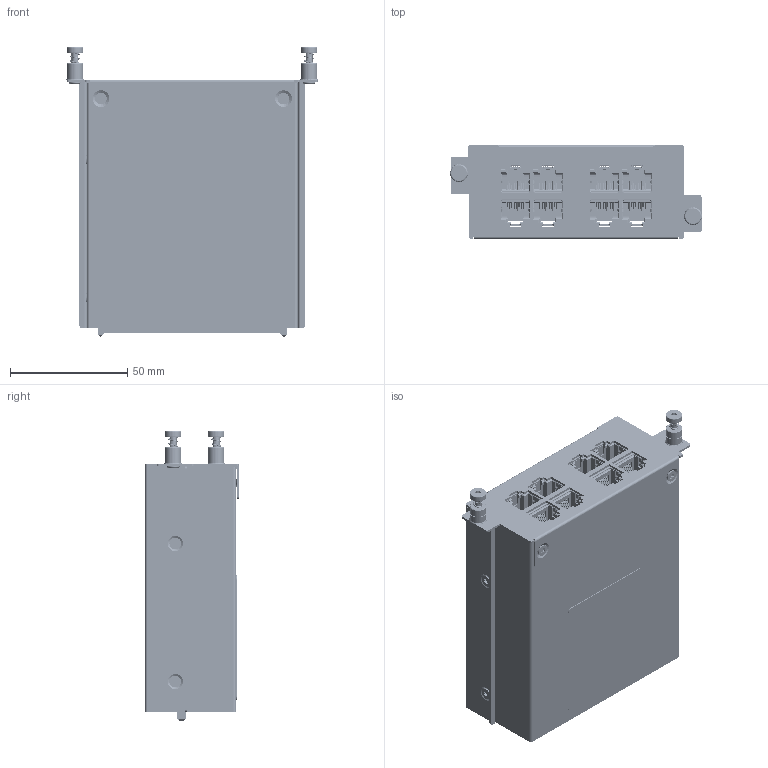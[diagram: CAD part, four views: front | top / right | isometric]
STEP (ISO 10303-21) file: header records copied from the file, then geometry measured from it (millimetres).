
FILE_DESCRIPTION((''),'2;1');
FILE_NAME('RKS_4000_8TX_SW0001','2022-06-19T15:31:51',('VicWM_Chen'),('PTC'),'CREO PARAMETRIC BY PTC INC, 2018020','CREO PARAMETRIC BY PTC INC, 2018020','');
FILE_SCHEMA(('AUTOMOTIVE_DESIGN { 1 0 10303 214 1 1 1 1 }'));
Products named in the file (1): RKS_4000_8TX_SW0001
Bounding box: 107.6 x 40.1 x 123.8 mm (x, y, z)
Volume: 73148.1 mm3; surface area: 133014 mm2
Topology: 1 solids, 3 shells, 18836 faces, 55108 edges, 35643 vertices
Faces by surface type: plane 14298, cylinder 3616, torus 418, cone 296, bspline 156, sphere 52
Entity records: 686427 total; most frequent: CARTESIAN_POINT 141462, ORIENTED_EDGE 110112, DIRECTION 99015, EDGE_CURVE 55056, VECTOR 45859, LINE 45859, VERTEX_POINT 35643, AXIS2_PLACEMENT_3D 26578
